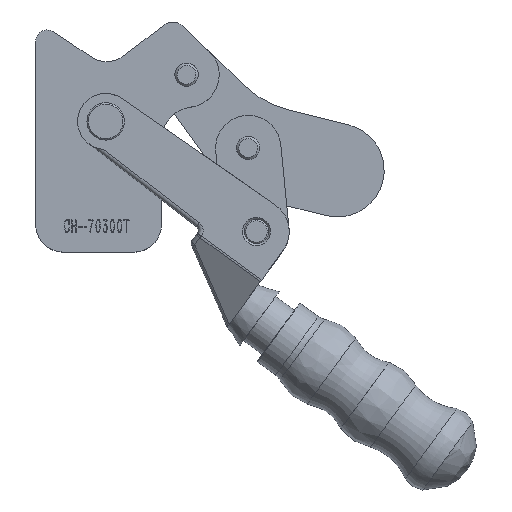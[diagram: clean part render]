
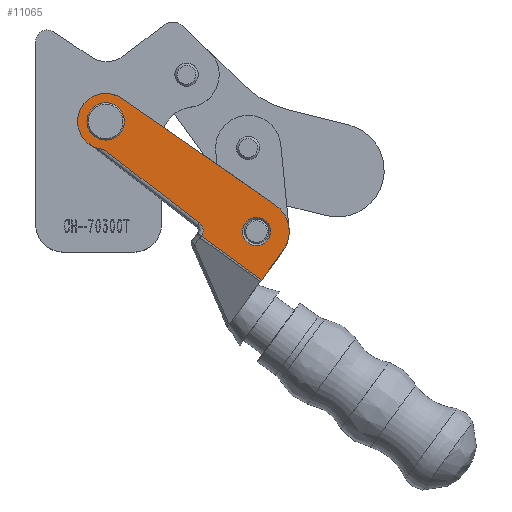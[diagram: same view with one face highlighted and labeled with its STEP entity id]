
A CAD part, top view. The second image highlights one B-rep face of the part: STEP entity #11065.
In plain terms, the highlighted planar face has unit normal (0, 0, 1).
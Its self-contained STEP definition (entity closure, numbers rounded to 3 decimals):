
#732=FACE_BOUND('',#2117,.T.);
#733=FACE_BOUND('',#2118,.T.);
#1001=PLANE('',#11806);
#1490=FACE_OUTER_BOUND('',#2116,.T.);
#2116=EDGE_LOOP('',(#9799,#9800,#9801,#9802,#9803,#9804,#9805,#9806));
#2117=EDGE_LOOP('',(#9807,#9808));
#2118=EDGE_LOOP('',(#9809,#9810));
#3114=LINE('',#26725,#4069);
#3121=LINE('',#26747,#4076);
#3136=LINE('',#26792,#4091);
#3137=LINE('',#26796,#4092);
#3138=LINE('',#26797,#4093);
#4069=VECTOR('',#13759,1000.);
#4076=VECTOR('',#13780,1000.);
#4091=VECTOR('',#13829,1000.);
#4092=VECTOR('',#13832,1000.);
#4093=VECTOR('',#13833,1000.);
#4256=CIRCLE('',#11735,3.);
#4257=CIRCLE('',#11736,3.);
#4260=CIRCLE('',#11740,3.);
#4261=CIRCLE('',#11741,3.);
#4286=CIRCLE('',#11777,6.);
#4289=CIRCLE('',#11787,7.);
#4298=CIRCLE('',#11807,2.);
#5323=VERTEX_POINT('',#26558);
#5324=VERTEX_POINT('',#26560);
#5327=VERTEX_POINT('',#26568);
#5328=VERTEX_POINT('',#26570);
#5369=VERTEX_POINT('',#26671);
#5370=VERTEX_POINT('',#26690);
#5381=VERTEX_POINT('',#26722);
#5382=VERTEX_POINT('',#26724);
#5387=VERTEX_POINT('',#26737);
#5403=VERTEX_POINT('',#26791);
#5404=VERTEX_POINT('',#26793);
#5405=VERTEX_POINT('',#26795);
#6821=EDGE_CURVE('',#5324,#5323,#4256,.T.);
#6822=EDGE_CURVE('',#5323,#5324,#4257,.T.);
#6826=EDGE_CURVE('',#5328,#5327,#4260,.T.);
#6827=EDGE_CURVE('',#5327,#5328,#4261,.T.);
#6876=EDGE_CURVE('',#5370,#5369,#4286,.T.);
#6891=EDGE_CURVE('',#5382,#5381,#3114,.T.);
#6899=EDGE_CURVE('',#5381,#5387,#4289,.T.);
#6903=EDGE_CURVE('',#5370,#5387,#3121,.T.);
#6927=EDGE_CURVE('',#5369,#5403,#3136,.T.);
#6928=EDGE_CURVE('',#5403,#5404,#4298,.T.);
#6929=EDGE_CURVE('',#5404,#5405,#3137,.T.);
#6930=EDGE_CURVE('',#5405,#5382,#3138,.T.);
#9799=ORIENTED_EDGE('',*,*,#6876,.T.);
#9800=ORIENTED_EDGE('',*,*,#6927,.T.);
#9801=ORIENTED_EDGE('',*,*,#6928,.T.);
#9802=ORIENTED_EDGE('',*,*,#6929,.T.);
#9803=ORIENTED_EDGE('',*,*,#6930,.T.);
#9804=ORIENTED_EDGE('',*,*,#6891,.T.);
#9805=ORIENTED_EDGE('',*,*,#6899,.T.);
#9806=ORIENTED_EDGE('',*,*,#6903,.F.);
#9807=ORIENTED_EDGE('',*,*,#6826,.T.);
#9808=ORIENTED_EDGE('',*,*,#6827,.T.);
#9809=ORIENTED_EDGE('',*,*,#6821,.T.);
#9810=ORIENTED_EDGE('',*,*,#6822,.T.);
#11065=ADVANCED_FACE('',(#1490,#732,#733),#1001,.T.);
#11735=AXIS2_PLACEMENT_3D('',#26561,#13629,#13630);
#11736=AXIS2_PLACEMENT_3D('',#26562,#13631,#13632);
#11740=AXIS2_PLACEMENT_3D('',#26571,#13640,#13641);
#11741=AXIS2_PLACEMENT_3D('',#26572,#13642,#13643);
#11777=AXIS2_PLACEMENT_3D('',#26691,#13737,#13738);
#11787=AXIS2_PLACEMENT_3D('',#26739,#13772,#13773);
#11806=AXIS2_PLACEMENT_3D('',#26790,#13827,#13828);
#11807=AXIS2_PLACEMENT_3D('',#26794,#13830,#13831);
#13629=DIRECTION('center_axis',(0.,0.,-1.));
#13630=DIRECTION('ref_axis',(1.,0.,0.));
#13631=DIRECTION('center_axis',(0.,0.,-1.));
#13632=DIRECTION('ref_axis',(1.,0.,0.));
#13640=DIRECTION('center_axis',(0.,0.,-1.));
#13641=DIRECTION('ref_axis',(1.,0.,0.));
#13642=DIRECTION('center_axis',(0.,0.,-1.));
#13643=DIRECTION('ref_axis',(1.,0.,0.));
#13737=DIRECTION('center_axis',(0.,0.,1.));
#13738=DIRECTION('ref_axis',(1.,0.,0.));
#13759=DIRECTION('',(-1.,0.,0.));
#13772=DIRECTION('center_axis',(0.,0.,1.));
#13773=DIRECTION('ref_axis',(1.,0.,0.));
#13780=DIRECTION('',(-0.025,1.,0.));
#13827=DIRECTION('center_axis',(0.,0.,1.));
#13828=DIRECTION('ref_axis',(1.,0.,0.));
#13829=DIRECTION('',(0.025,1.,0.));
#13830=DIRECTION('center_axis',(0.,0.,-1.));
#13831=DIRECTION('ref_axis',(1.,0.,0.));
#13832=DIRECTION('',(1.,0.,0.));
#13833=DIRECTION('',(0.,1.,0.));
#26558=CARTESIAN_POINT('',(1262.319,62.312,20.));
#26560=CARTESIAN_POINT('',(1268.319,62.312,20.));
#26561=CARTESIAN_POINT('Origin',(1265.319,62.312,20.));
#26562=CARTESIAN_POINT('Origin',(1265.319,62.312,20.));
#26568=CARTESIAN_POINT('',(1262.319,22.312,20.));
#26570=CARTESIAN_POINT('',(1268.319,22.312,20.));
#26571=CARTESIAN_POINT('Origin',(1265.319,22.312,20.));
#26572=CARTESIAN_POINT('Origin',(1265.319,22.312,20.));
#26671=CARTESIAN_POINT('',(1270.398,25.506,20.));
#26690=CARTESIAN_POINT('',(1259.319,22.312,20.));
#26691=CARTESIAN_POINT('Origin',(1265.319,22.312,20.));
#26722=CARTESIAN_POINT('',(1265.319,69.312,20.));
#26724=CARTESIAN_POINT('',(1273.08,69.312,20.));
#26725=CARTESIAN_POINT('',(0.,69.312,20.));
#26737=CARTESIAN_POINT('',(1258.319,62.312,20.));
#26739=CARTESIAN_POINT('Origin',(1265.319,62.312,20.));
#26747=CARTESIAN_POINT('',(1259.089,31.477,20.));
#26790=CARTESIAN_POINT('Origin',(0.,0.,20.));
#26791=CARTESIAN_POINT('',(1271.045,51.362,20.));
#26792=CARTESIAN_POINT('',(1271.045,51.362,20.));
#26793=CARTESIAN_POINT('',(1273.044,53.312,20.));
#26794=CARTESIAN_POINT('Origin',(1273.044,51.312,20.));
#26795=CARTESIAN_POINT('',(1273.08,53.312,20.));
#26796=CARTESIAN_POINT('',(0.,53.312,20.));
#26797=CARTESIAN_POINT('',(1273.08,69.312,20.));
